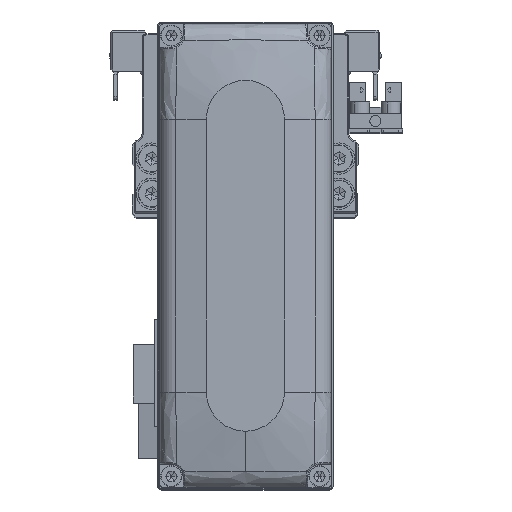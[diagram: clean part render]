
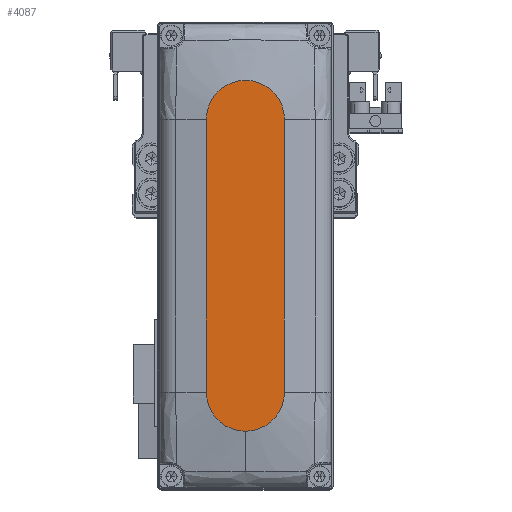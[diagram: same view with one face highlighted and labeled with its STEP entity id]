
A CAD part, top view. The second image highlights one B-rep face of the part: STEP entity #4087.
In plain terms, the highlighted planar face has unit normal (0, 0, 1).
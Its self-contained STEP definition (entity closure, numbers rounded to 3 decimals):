
#739 = CARTESIAN_POINT ( 'NONE',  ( 35., 10., 28. ) ) ;
#3168 = EDGE_CURVE ( 'NONE', #4751, #20335, #33631, .T. ) ;
#4087 = ADVANCED_FACE ( 'NONE', ( #11073 ), #22316, .T. ) ;
#4751 = VERTEX_POINT ( 'NONE', #12615 ) ;
#6205 = VERTEX_POINT ( 'NONE', #21676 ) ;
#6511 = EDGE_CURVE ( 'NONE', #6205, #14427, #8578, .T. ) ;
#7047 = DIRECTION ( 'NONE',  ( 1., 0., 0. ) ) ;
#8317 = DIRECTION ( 'NONE',  ( 0., 0., 1. ) ) ;
#8578 = CIRCLE ( 'NONE', #29169, 10. ) ;
#8591 = ORIENTED_EDGE ( 'NONE', *, *, #12152, .T. ) ;
#8975 = CARTESIAN_POINT ( 'NONE',  ( -35., 10., 28. ) ) ;
#9222 = CARTESIAN_POINT ( 'NONE',  ( -35., -10., 28. ) ) ;
#9508 = DIRECTION ( 'NONE',  ( 1., 0., 0. ) ) ;
#9563 = EDGE_CURVE ( 'NONE', #20335, #6205, #34451, .T. ) ;
#10784 = CIRCLE ( 'NONE', #31377, 10. ) ;
#11073 = FACE_OUTER_BOUND ( 'NONE', #27173, .T. ) ;
#11210 = VECTOR ( 'NONE', #20450, 1000. ) ;
#11726 = CARTESIAN_POINT ( 'NONE',  ( 35., 0., 28. ) ) ;
#12152 = EDGE_CURVE ( 'NONE', #33524, #4751, #34186, .T. ) ;
#12615 = CARTESIAN_POINT ( 'NONE',  ( -35., 10., 28. ) ) ;
#12885 = ORIENTED_EDGE ( 'NONE', *, *, #9563, .T. ) ;
#14427 = VERTEX_POINT ( 'NONE', #20498 ) ;
#17770 = AXIS2_PLACEMENT_3D ( 'NONE', #23509, #34727, #9508 ) ;
#19561 = DIRECTION ( 'NONE',  ( 1., 0., 0. ) ) ;
#20228 = DIRECTION ( 'NONE',  ( -1., 0., 0. ) ) ;
#20335 = VERTEX_POINT ( 'NONE', #32763 ) ;
#20450 = DIRECTION ( 'NONE',  ( 1., 0., 0. ) ) ;
#20498 = CARTESIAN_POINT ( 'NONE',  ( 45., 0., 28. ) ) ;
#21054 = CARTESIAN_POINT ( 'NONE',  ( 35., 0., 28. ) ) ;
#21676 = CARTESIAN_POINT ( 'NONE',  ( 35., -10., 28. ) ) ;
#22316 = PLANE ( 'NONE',  #30176 ) ;
#22975 = DIRECTION ( 'NONE',  ( 0., 0., 1. ) ) ;
#23509 = CARTESIAN_POINT ( 'NONE',  ( -35., 0., 28. ) ) ;
#26083 = VECTOR ( 'NONE', #20228, 1000. ) ;
#27173 = EDGE_LOOP ( 'NONE', ( #8591, #27837, #12885, #29547, #30785 ) ) ;
#27722 = EDGE_CURVE ( 'NONE', #14427, #33524, #10784, .T. ) ;
#27837 = ORIENTED_EDGE ( 'NONE', *, *, #3168, .T. ) ;
#29169 = AXIS2_PLACEMENT_3D ( 'NONE', #21054, #32266, #7047 ) ;
#29547 = ORIENTED_EDGE ( 'NONE', *, *, #6511, .T. ) ;
#30176 = AXIS2_PLACEMENT_3D ( 'NONE', #33523, #8317, #19561 ) ;
#30785 = ORIENTED_EDGE ( 'NONE', *, *, #27722, .T. ) ;
#31377 = AXIS2_PLACEMENT_3D ( 'NONE', #11726, #22975, #34192 ) ;
#32266 = DIRECTION ( 'NONE',  ( 0., 0., 1. ) ) ;
#32763 = CARTESIAN_POINT ( 'NONE',  ( -35., -10., 28. ) ) ;
#33523 = CARTESIAN_POINT ( 'NONE',  ( 0., 0., 28. ) ) ;
#33524 = VERTEX_POINT ( 'NONE', #739 ) ;
#33631 = CIRCLE ( 'NONE', #17770, 10. ) ;
#34186 = LINE ( 'NONE', #8975, #26083 ) ;
#34192 = DIRECTION ( 'NONE',  ( 1., 0., 0. ) ) ;
#34451 = LINE ( 'NONE', #9222, #11210 ) ;
#34727 = DIRECTION ( 'NONE',  ( 0., 0., 1. ) ) ;
